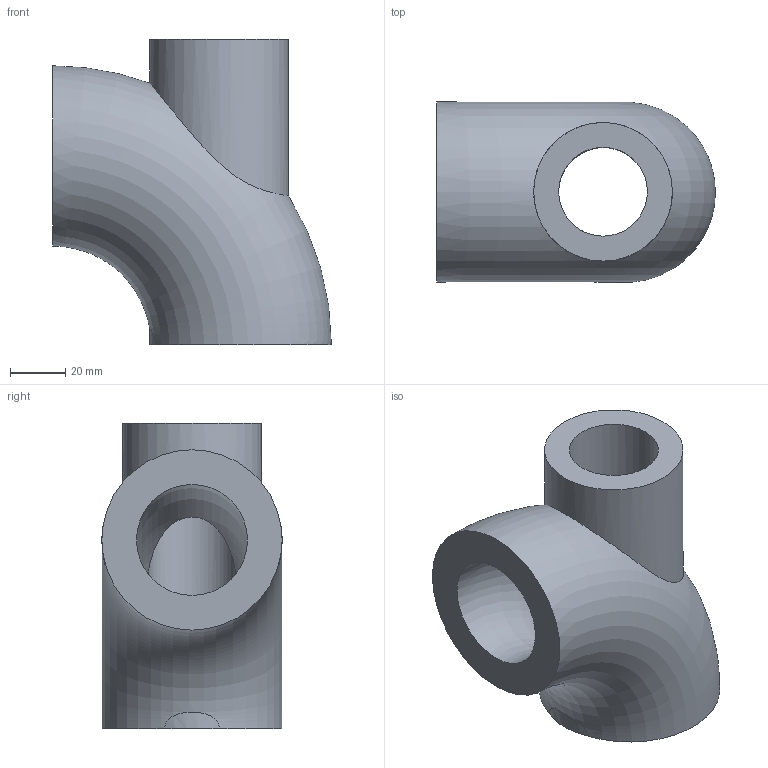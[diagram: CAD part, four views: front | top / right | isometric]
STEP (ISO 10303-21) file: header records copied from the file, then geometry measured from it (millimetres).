
FILE_DESCRIPTION(('Open CASCADE Model'),'2;1');
FILE_NAME('Open CASCADE Shape Model','2026-11-02T09:50:26',('Author'),( 'Open CASCADE'),'Open CASCADE STEP processor 7.8','Open CASCADE 7.8' ,'Unknown');
FILE_SCHEMA(('AUTOMOTIVE_DESIGN { 1 0 10303 214 1 1 1 1 }'));
Length unit declared in the file: millimetre
Products named in the file (1): Open CASCADE STEP translator 7.8 3
Bounding box: 100.5 x 65 x 110 mm (x, y, z)
Volume: 247062.3 mm3; surface area: 47970.3 mm2
Topology: 1 solids, 1 shells, 9 faces, 22 edges, 14 vertices
Faces by surface type: cylinder 4, plane 3, torus 2
Full cylindrical faces by diameter (mm): 32 x1, 50 x1
Entity records: 2114 total; most frequent: CARTESIAN_POINT 1668, DIRECTION 80, ORIENTED_EDGE 44, PCURVE 44, DEFINITIONAL_REPRESENTATION 44, AXIS2_PLACEMENT_3D 24, LINE 24, VECTOR 24
